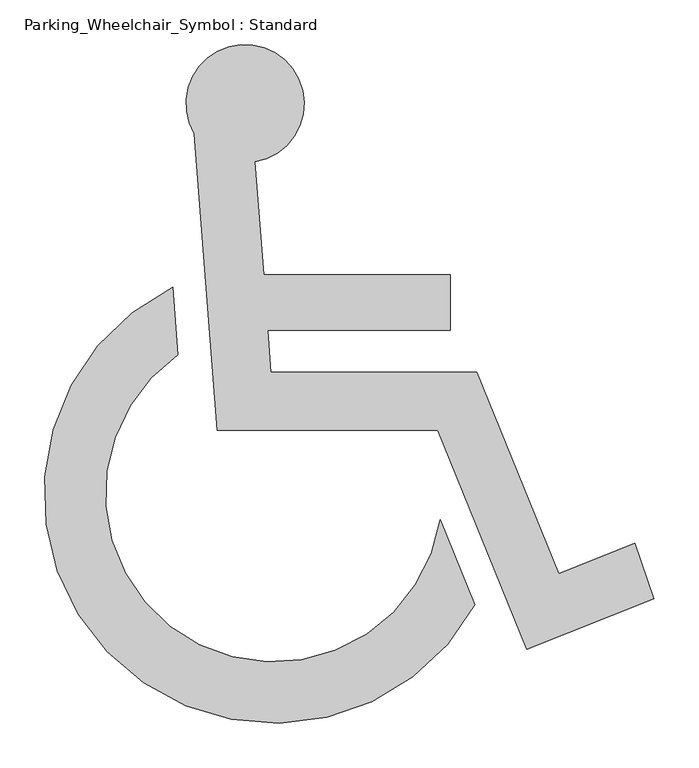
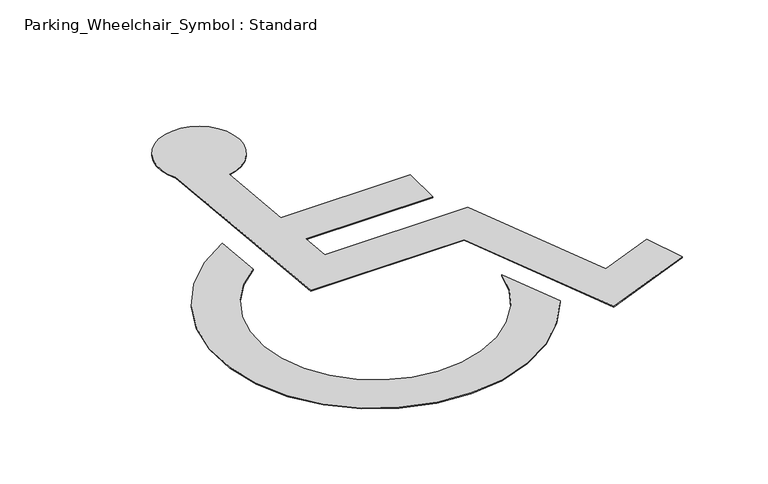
"""IFC4 building model written with IfcOpenShell, lengths in millimetres: proxy geometry, Parking_Wheelchair_Symbol : Standard."""

from ifc_helpers import new_model, si_unit, point, frame_2d, origin, origin_with_axes, place, context, project, spatial, polyline, circle_curve, trimmed, segment, composite_curve, outline, extrude, source, transform, mapped, element, save


def parking_wheelchair_symbol_standard_0468f472(model_context):
    return source(origin(), model_context, "Body", "SweptSolid", [
        extrude(outline(composite_curve([segment(trimmed(circle_curve(frame_2d((5.6043949, 321.8663219)), 66.0449209), [point((-51.1975935, 288.1696503))], [point((16.5386145, 256.7328097))], False, "CARTESIAN"), True, "CONTINUOUS"), segment(polyline([(16.5386145, 256.7328097), (26.1998714, 129.9833751), (235.2428621, 129.9833751), (235.2428621, 68.2907282), (30.9022869, 68.2907282), (34.4970725, 21.1294685), (264.8390947, 21.1294685), (356.6547828, -204.669024), (441.9646244, -170.5597728), (463.1291965, -232.2631972), (320.7002448, -289.2102599), (220.9999699, -44.0215315), (-25.8768941, -44.0215315), (-51.1975935, 288.1696503)]), True, "CONTINUOUS")], self_intersect=False)), origin_with_axes(), (0.0, 0.0, 1.0), 1.5875),
        extrude(outline(composite_curve([segment(polyline([(-75.436866, 116.279405), (-69.652477, 40.3919672)]), True, "CONTINUOUS"), segment(trimmed(circle_curve(frame_2d((37.7222674, -114.7682027)), 188.6902596), [point((-69.652477, 40.3919672))], [point((224.0788255, -144.3527812))], True, "CARTESIAN"), True, "CONTINUOUS"), segment(polyline([(224.0788255, -144.3527812), (262.7534435, -239.4636565)]), True, "CONTINUOUS"), segment(trimmed(circle_curve(frame_2d((37.7222674, -114.7682027)), 257.2702596), [point((262.7534435, -239.4636565))], [point((-75.436866, 116.279405))], False, "CARTESIAN"), True, "CONTINUOUS")], self_intersect=False)), origin_with_axes(), (0.0, 0.0, 1.0), 1.5875),
    ])


if __name__ == "__main__":
    model = new_model("IFC4")
    model_context = context("Model", 3, world=origin())
    ifc_project = project(units=[si_unit("LENGTHUNIT", "METRE", prefix="MILLI")], contexts=[model_context])
    site = spatial("IfcSite", under=ifc_project)
    building = spatial("IfcBuilding", under=site)
    placement = place(None, origin())
    parking_wheelchair_symbol_standard_shape = parking_wheelchair_symbol_standard_0468f472(model_context)
    element("IfcBuildingElementProxy", 1, Name="Parking_Wheelchair_Symbol : Standard", ObjectType="Parking_Wheelchair_Symbol : Standard", at=placement, inside=building, context=model_context, shape_type="MappedRepresentation", body=[
        mapped(parking_wheelchair_symbol_standard_shape, transform((0.0, 0.0, 0.0), x_axis=(1.0, 0.0, 0.0), y_axis=(0.0, 1.0, 0.0), z_axis=(0.0, 0.0, 1.0))),
    ])
    save(model, "model.ifc")
